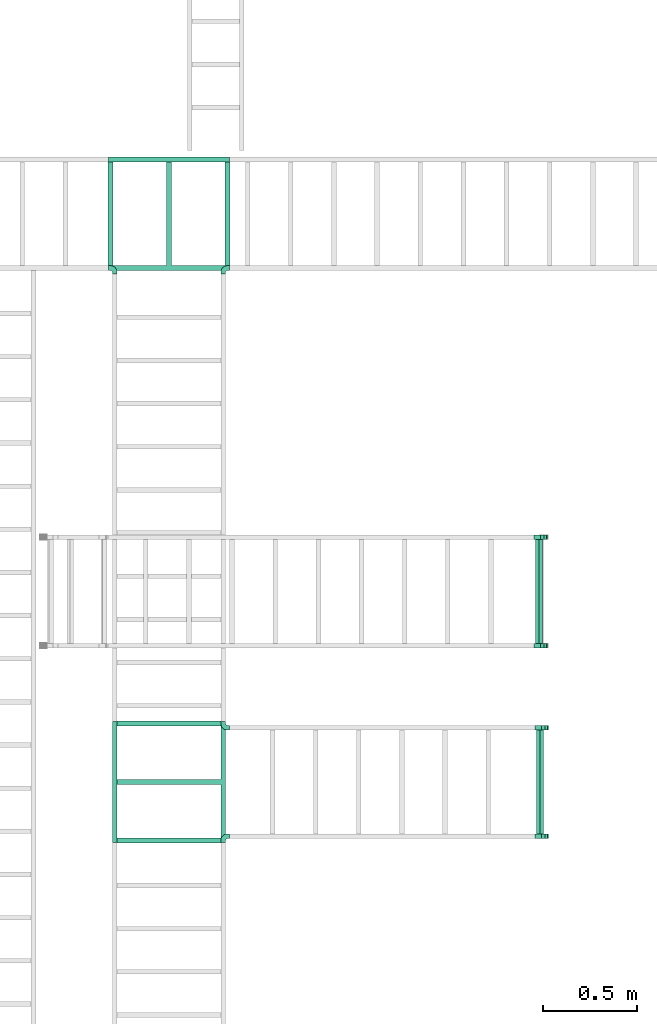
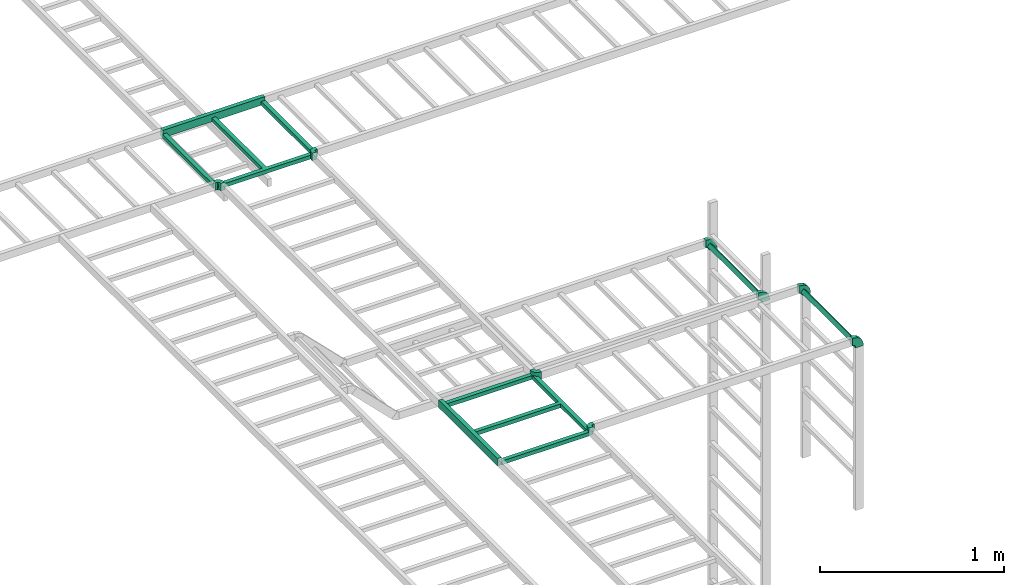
# One storey, part 1 of 6: 4 flow fittings.
"""IFC2X3 building model written with IfcOpenShell, lengths in millimetres."""

from ifc_helpers import new_model, entity, si_unit, converted_unit, derived_unit, direction, frame, origin_with_axes, place, context, subcontext, project, spatial, open_shell, surface_model, source, transform, mapped, type_object, element, save


model = new_model("IFC2X3")

# Units and contexts
model_context = context("Model", 3, precision=0.01, world=frame((0.0, 4.29681676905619e-09, 0.0)), true_north=direction((4.01073788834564e-13, 1.0)))
plan_context = context("Plan", 3, precision=0.01, world=frame((0.0, 4.29681676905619e-09, 0.0)), true_north=direction((4.01073788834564e-13, 1.0)))
body_context = subcontext(model_context, "Body", "Model", "MODEL_VIEW")
ifc_project = project(units=[converted_unit("PLANEANGLEUNIT", "DEGREE", entity("IfcPositiveLengthMeasure", 0.0174532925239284), si_unit("PLANEANGLEUNIT", "RADIAN"), dimensions=[0, 0, 0, 0, 0, 0, 0]), si_unit("AREAUNIT", "SQUARE_METRE"), si_unit("LENGTHUNIT", "METRE", prefix="MILLI"), si_unit("MASSUNIT", "GRAM", prefix="KILO"), si_unit("POWERUNIT", "WATT"), si_unit("PRESSUREUNIT", "PASCAL", prefix="KILO"), si_unit("FORCEUNIT", "NEWTON", prefix="KILO"), si_unit("ELECTRICVOLTAGEUNIT", "VOLT"), si_unit("ELECTRICCURRENTUNIT", "AMPERE"), si_unit("THERMODYNAMICTEMPERATUREUNIT", "DEGREE_CELSIUS"), si_unit("TIMEUNIT", "SECOND"), si_unit("VOLUMEUNIT", "CUBIC_METRE"), derived_unit("LINEARVELOCITYUNIT", [(si_unit("LENGTHUNIT", "METRE"), 1), (si_unit("TIMEUNIT", "SECOND"), -1)]), derived_unit("VOLUMETRICFLOWRATEUNIT", [(si_unit("VOLUMEUNIT", "CUBIC_METRE"), 1), (si_unit("TIMEUNIT", "SECOND"), -1)]), derived_unit("THERMALTRANSMITTANCEUNIT", [(si_unit("POWERUNIT", "WATT"), 1), (si_unit("THERMODYNAMICTEMPERATUREUNIT", "KELVIN"), -1), (si_unit("AREAUNIT", "SQUARE_METRE"), -1)]), derived_unit("SOUNDPRESSUREUNIT", [(si_unit("PRESSUREUNIT", "PASCAL"), 1)])], contexts=[model_context, plan_context])

# Site, building, storey
site_placement = place(None, frame((0.0, -4.29681676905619e-09, 0.0), z_axis=(0.0, 0.0, 1.0), x_axis=(1.0, 0.0, 0.0)))
site = spatial("IfcSite", under=ifc_project, at=site_placement, Name="ENGM", CompositionType="ELEMENT")
building_placement = place(site_placement, frame((0.0, 4.29681676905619e-09, 0.0), z_axis=(0.0, 0.0, 1.0), x_axis=(1.0, 0.0, 0.0)))
building = spatial("IfcBuilding", under=site, at=building_placement, Name="TS", CompositionType="ELEMENT")
storey_placement = place(building_placement, frame((0.0, 0.0, 210900.0), z_axis=(0.0, 0.0, 1.0), x_axis=(1.0, 0.0, 0.0)))
storey = spatial("IfcBuildingStorey", under=building, at=storey_placement, Name="Nivå F", CompositionType="ELEMENT", Elevation=210900.0)

# Flow fittings
cable_carrier_fitting_type_1 = type_object("IfcCableCarrierFittingType", Name="10mm Radius", PredefinedType="TEE")
shared_shape_1 = source(origin_with_axes(), body_context, "Body", "SurfaceModel", [
    surface_model("IfcShellBasedSurfaceModel", [(322.7, -274.60001, 0.4), (322.7, 274.60001, 0.4), (297.3, 274.60001, 0.4), (297.3, -274.60001, 0.4), (297.3, -274.60001, -25.0), (297.3, 274.60001, -25.0), (322.7, 274.60001, -25.0), (322.7, -274.60001, -25.0), (12.7, -274.60001, 0.4), (12.7, 274.60001, 0.4), (-12.7, 274.60001, 0.4), (-12.7, -274.60001, 0.4), (-12.7, -274.60001, -25.0), (-12.7, 274.60001, -25.0), (12.7, 274.60001, -25.0), (12.7, -274.60001, -25.0), (-297.3, -274.60001, 0.4), (-297.3, 274.60001, 0.4), (-322.7, 274.60001, 0.4), (-322.7, -274.60001, 0.4), (-322.7, -274.60001, -25.0), (-322.7, 274.60001, -25.0), (-297.3, 274.60001, -25.0), (-297.3, -274.60001, -25.0), (-310.0, -274.60001, 25.0), (-320.00002, -274.60001, 25.0), (-310.0, -300.0, 25.0), (-320.00002, -300.0, 25.0), (-307.4118, -300.34073, 25.0), (-304.99999, -301.33975, 25.0), (-292.3, -279.34271, 25.0), (-300.83781, -275.80622, 25.0), (-279.34271, -292.3, 25.0), (-284.96842, -284.96842, 25.0), (-302.92893, -302.92893, 25.0), (-301.33975, -304.99999, 25.0), (-300.34073, -307.4118, 25.0), (-275.80622, -300.83781, 25.0), (-274.60001, -310.0, 25.0), (-300.0, -310.0, 25.0), (-300.0, -320.00002, 25.0), (-274.60001, -320.00002, 25.0), (304.99999, -301.33975, 25.0), (307.4118, -300.34073, 25.0), (300.83781, -275.80622, 25.0), (292.3, -279.34271, 25.0), (284.96842, -284.96842, 25.0), (302.92893, -302.92893, 25.0), (320.00002, -274.60001, 25.0), (310.0, -274.60001, 25.0), (310.0, -300.0, 25.0), (320.00002, -300.0, 25.0), (279.34271, -292.3, 25.0), (300.34073, -307.4118, 25.0), (275.80622, -300.83781, 25.0), (274.60001, -310.0, 25.0), (300.0, -310.0, 25.0), (274.60001, -320.00002, 25.0), (300.0, -320.00002, 25.0), (301.33975, -304.99999, 25.0), (320.00002, 300.0, 25.0), (-320.00002, 300.0, 25.0), (320.00002, 274.60001, 25.0), (-320.00002, 274.60001, 25.0), (-300.0, -320.00002, -25.0), (-300.0, -310.0, -25.0), (-274.60001, -320.00002, -25.0), (-274.60001, -310.0, -25.0), (-274.96527, -304.92779, -25.0), (-300.34073, -307.4118, -25.0), (-276.0418, -300.0, -25.0), (-301.33975, -304.99999, -25.0), (300.0, -320.00002, -25.0), (274.60001, -320.00002, -25.0), (300.0, -310.0, -25.0), (274.60001, -310.0, -25.0), (274.96527, -304.92779, -25.0), (300.34073, -307.4118, -25.0), (276.0418, -300.0, -25.0), (301.33975, -304.99999, -25.0), (-304.99999, -301.33975, -25.0), (-307.4118, -300.34073, -25.0), (-320.00002, -274.60001, -25.0), (-302.92893, -302.92893, -25.0), (-320.00002, -300.0, -25.0), (-310.0, -300.0, -25.0), (320.00002, -274.60001, -25.0), (304.99999, -301.33975, -25.0), (302.92893, -302.92893, -25.0), (307.4118, -300.34073, -25.0), (310.0, -300.0, -25.0), (320.00002, -300.0, -25.0), (320.00002, 274.60001, -25.0), (-320.00002, 274.60001, -25.0), (-320.00002, 300.0, -25.0), (320.00002, 300.0, -25.0), (-276.0418, -300.0, 0.4), (-279.69674, -291.70049, 0.4), (-285.34038, -284.60191, 0.4), (-292.60234, -279.17011, 0.4), (-301.00605, -275.76158, 0.4), (-310.0, -274.60001, 0.4), (310.0, -274.60001, 0.4), (-310.0, -300.0, 0.4), (310.0, -300.0, 0.4), (301.00605, -275.76158, 0.4), (292.60234, -279.17011, 0.4), (285.34038, -284.60191, 0.4), (279.69674, -291.70049, 0.4), (276.0418, -300.0, 0.4)], [open_shell([[[0, 1, 2]], [[2, 3, 0]], [[4, 5, 6]], [[6, 7, 4]], [[2, 1, 5]], [[6, 5, 1]], [[3, 2, 5]], [[5, 4, 3]], [[0, 3, 7]], [[4, 7, 3]], [[1, 0, 7]], [[7, 6, 1]], [[8, 9, 10]], [[10, 11, 8]], [[12, 13, 14]], [[14, 15, 12]], [[10, 9, 13]], [[14, 13, 9]], [[11, 10, 13]], [[13, 12, 11]], [[8, 11, 15]], [[12, 15, 11]], [[9, 8, 15]], [[15, 14, 9]], [[16, 17, 18]], [[18, 19, 16]], [[20, 21, 22]], [[22, 23, 20]], [[18, 17, 21]], [[22, 21, 17]], [[19, 18, 21]], [[21, 20, 19]], [[16, 19, 23]], [[20, 23, 19]], [[17, 16, 23]], [[23, 22, 17]], [[24, 25, 26]], [[27, 26, 25]], [[24, 26, 28]], [[29, 30, 31]], [[32, 33, 34]], [[30, 34, 33]], [[31, 28, 29]], [[31, 24, 28]], [[35, 32, 34]], [[35, 36, 37]], [[35, 37, 32]], [[37, 36, 38]], [[39, 40, 41]], [[39, 41, 38]], [[36, 39, 38]], [[34, 30, 29]], [[42, 43, 44]], [[42, 44, 45]], [[45, 46, 47]], [[48, 49, 50]], [[43, 50, 49]], [[50, 51, 48]], [[49, 44, 43]], [[46, 52, 47]], [[53, 54, 55]], [[56, 57, 58]], [[57, 56, 55]], [[53, 55, 56]], [[42, 45, 47]], [[53, 59, 54]], [[52, 59, 47]], [[52, 54, 59]], [[60, 61, 62]], [[63, 62, 61]], [[64, 65, 66]], [[66, 65, 67]], [[68, 69, 70]], [[67, 65, 68]], [[69, 71, 70]], [[68, 65, 69]], [[72, 73, 74]], [[74, 73, 75]], [[76, 77, 74]], [[78, 79, 77]], [[77, 76, 78]], [[76, 74, 75]], [[80, 81, 82]], [[83, 80, 70]], [[84, 82, 85]], [[82, 81, 85]], [[80, 82, 70]], [[82, 86, 70]], [[87, 88, 78]], [[89, 87, 86]], [[89, 86, 90]], [[86, 87, 78]], [[86, 91, 90]], [[78, 70, 86]], [[79, 78, 88]], [[71, 83, 70]], [[92, 93, 94]], [[94, 95, 92]], [[40, 39, 65]], [[65, 64, 40]], [[41, 40, 64]], [[64, 66, 41]], [[38, 41, 67]], [[66, 67, 41]], [[38, 67, 68]], [[70, 96, 68]], [[38, 68, 96]], [[38, 96, 37]], [[32, 97, 33]], [[32, 37, 96]], [[97, 32, 96]], [[98, 99, 30]], [[100, 101, 24]], [[99, 100, 31]], [[33, 98, 30]], [[30, 99, 31]], [[100, 24, 31]], [[98, 33, 97]], [[49, 48, 102]], [[25, 24, 101]], [[102, 86, 82]], [[86, 102, 48]], [[101, 82, 25]], [[82, 101, 102]], [[27, 25, 84]], [[82, 84, 25]], [[26, 27, 103]], [[103, 84, 85]], [[84, 103, 27]], [[28, 26, 103]], [[29, 28, 103]], [[81, 103, 85]], [[103, 81, 80]], [[83, 103, 80]], [[34, 29, 103]], [[35, 34, 83]], [[71, 36, 35]], [[36, 69, 39]], [[71, 35, 83]], [[36, 71, 69]], [[39, 69, 65]], [[103, 83, 34]], [[53, 56, 77]], [[59, 53, 79]], [[77, 56, 74]], [[53, 77, 79]], [[59, 79, 88]], [[88, 47, 59]], [[42, 47, 104]], [[104, 43, 42]], [[43, 104, 50]], [[104, 87, 89]], [[89, 90, 104]], [[87, 104, 88]], [[47, 88, 104]], [[51, 50, 104]], [[104, 90, 91]], [[104, 91, 51]], [[48, 51, 86]], [[91, 86, 51]], [[49, 102, 105]], [[106, 107, 45]], [[44, 105, 106]], [[44, 49, 105]], [[45, 44, 106]], [[107, 46, 45]], [[107, 108, 46]], [[109, 78, 76]], [[55, 76, 75]], [[52, 109, 54]], [[109, 52, 108]], [[55, 54, 109]], [[109, 76, 55]], [[108, 52, 46]], [[57, 55, 75]], [[75, 73, 57]], [[58, 57, 73]], [[73, 72, 58]], [[56, 58, 72]], [[72, 74, 56]], [[61, 60, 95]], [[95, 94, 61]], [[63, 61, 93]], [[94, 93, 61]], [[62, 63, 93]], [[93, 92, 62]], [[60, 62, 95]], [[92, 95, 62]], [[105, 102, 101]], [[106, 105, 100]], [[108, 107, 98]], [[109, 108, 97]], [[106, 99, 107]], [[100, 99, 106]], [[101, 100, 105]], [[97, 96, 109]], [[98, 97, 108]], [[99, 98, 107]], [[109, 96, 70]], [[70, 78, 109]]])]),
])
for number, where, z_axis, x_axis, name in (
    (1, (717167.4114, 442266.22699, 3925.0), (0.0, 0.0, 1.0), (1.0, 0.0, 0.0), "10mm Radius"),
    (2, (717167.4114, 439256.15201, 3925.0), (0.0, 0.0, 1.0), (0.0, 1.0, 0.0), "10mm Radius"),
):
    element("IfcFlowFitting", number, at=place(storey_placement, frame(where, z_axis=z_axis, x_axis=x_axis)), inside=storey, type_object=cable_carrier_fitting_type_1, Name=name, context=body_context, shape_type="MappedRepresentation", body=[
        mapped(shared_shape_1, transform((0.0, 0.0, 0.0), scale=1.0)),
    ])
cable_carrier_fitting_type_2 = type_object("IfcCableCarrierFittingType", Name="Standard 10mm", PredefinedType="BEND")
shared_shape_2 = source(origin_with_axes(), body_context, "Body", "SurfaceModel", [
    surface_model("IfcShellBasedSurfaceModel", [(-18.94868, 36.90919, 274.60001), (-0.98816, 18.94868, -274.60001), (-18.94868, 36.90919, -274.60001), (-0.98816, 18.94868, 274.60001), (-18.94868, 0.98816, 274.60001), (-18.94868, 0.98816, -274.60001), (-36.90919, 18.94868, -274.60001), (-36.90919, 18.94868, 274.60001), (-45.0, 25.0, 300.0), (-45.0, 25.0, 274.60001), (-45.0, -25.0, 274.60001), (-45.0, -25.0, 300.0), (-45.0, 25.0, -274.60001), (-45.0, 25.0, -300.0), (-45.0, -25.0, -300.0), (-45.0, -25.0, -274.60001), (-35.0, 25.0, 274.60001), (-35.0, 25.0, 300.0), (-12.03899, -20.43277, 274.60001), (-27.92893, 27.92893, 274.60001), (-35.0, -25.0, 274.60001), (-25.0, 45.0, 274.60001), (25.0, 35.0, 274.60001), (-25.0, 35.0, 274.60001), (25.0, 45.0, 274.60001), (20.43277, 12.03899, 274.60001), (7.42641, -7.42641, 274.60001), (-35.0, -25.0, 300.0), (-27.92893, 27.92893, 300.0), (-12.03899, -20.43277, 300.0), (7.42641, -7.42641, 300.0), (20.43277, 12.03899, 300.0), (-25.0, 35.0, 300.0), (25.0, 35.0, 300.0), (25.0, 45.0, 300.0), (-25.0, 45.0, 300.0), (-35.0, 25.0, -300.0), (-35.0, 25.0, -274.60001), (-12.03899, -20.43277, -300.0), (-27.92893, 27.92893, -300.0), (-35.0, -25.0, -300.0), (-25.0, 45.0, -300.0), (25.0, 35.0, -300.0), (-25.0, 35.0, -300.0), (25.0, 45.0, -300.0), (20.43277, 12.03899, -300.0), (7.42641, -7.42641, -300.0), (-35.0, -25.0, -274.60001), (-27.92893, 27.92893, -274.60001), (-12.03899, -20.43277, -274.60001), (7.42641, -7.42641, -274.60001), (20.43277, 12.03899, -274.60001), (-25.0, 35.0, -274.60001), (25.0, 35.0, -274.60001), (25.0, 45.0, -274.60001), (-25.0, 45.0, -274.60001), (-21.41693, -22.29816, 300.0), (-23.5195, -22.71639, 274.60001), (-2.30629, -13.92959, 274.60001), (-2.30629, -13.92959, 300.0), (22.71639, 23.5195, 274.60001), (22.71639, 23.5195, 300.0), (13.92959, 2.30629, 300.0), (13.92959, 2.30629, 274.60001), (-21.41693, -22.29816, -300.0), (-23.5195, -22.71639, -274.60001), (-2.30629, -13.92959, -274.60001), (-2.30629, -13.92959, -300.0), (22.29816, 21.41693, -274.60001), (22.71639, 23.5195, -300.0), (13.92959, 2.30629, -300.0), (13.92959, 2.30629, -274.60001)], [open_shell([[[0, 1, 2]], [[1, 0, 3]], [[1, 3, 4]], [[4, 5, 1]], [[2, 1, 5]], [[5, 6, 2]], [[0, 2, 6]], [[6, 7, 0]], [[3, 0, 7]], [[7, 4, 3]], [[6, 5, 7]], [[4, 7, 5]], [[8, 9, 10]], [[10, 11, 8]], [[12, 13, 14]], [[14, 15, 12]], [[9, 8, 16]], [[17, 16, 8]], [[18, 16, 19]], [[9, 20, 10]], [[20, 9, 16]], [[18, 20, 16]], [[21, 22, 23]], [[22, 21, 24]], [[23, 22, 25]], [[26, 18, 19]], [[19, 25, 26]], [[19, 23, 25]], [[11, 10, 20]], [[20, 27, 11]], [[8, 11, 27]], [[28, 17, 29]], [[8, 27, 17]], [[29, 17, 27]], [[30, 31, 28]], [[28, 31, 32]], [[33, 34, 35]], [[33, 32, 31]], [[33, 35, 32]], [[30, 28, 29]], [[13, 12, 36]], [[37, 36, 12]], [[38, 36, 39]], [[13, 40, 14]], [[40, 13, 36]], [[38, 40, 36]], [[41, 42, 43]], [[42, 41, 44]], [[43, 42, 45]], [[46, 38, 39]], [[39, 45, 46]], [[39, 43, 45]], [[15, 14, 40]], [[40, 47, 15]], [[12, 15, 47]], [[48, 37, 49]], [[12, 47, 37]], [[49, 37, 47]], [[50, 51, 48]], [[48, 51, 52]], [[53, 54, 55]], [[53, 52, 51]], [[53, 55, 52]], [[50, 48, 49]], [[28, 16, 17]], [[19, 16, 28]], [[32, 23, 19]], [[28, 32, 19]], [[18, 56, 57]], [[58, 30, 59]], [[27, 57, 56]], [[30, 58, 26]], [[18, 29, 56]], [[59, 18, 58]], [[33, 60, 22]], [[31, 25, 61]], [[26, 62, 30]], [[61, 60, 33]], [[57, 27, 20]], [[63, 31, 62]], [[61, 25, 60]], [[62, 26, 63]], [[63, 25, 31]], [[59, 29, 18]], [[37, 39, 36]], [[48, 39, 37]], [[52, 43, 48]], [[39, 48, 43]], [[49, 64, 38]], [[64, 49, 65]], [[40, 65, 47]], [[46, 66, 67]], [[49, 38, 67]], [[53, 68, 69]], [[46, 50, 66]], [[49, 67, 66]], [[69, 42, 53]], [[40, 64, 65]], [[50, 70, 71]], [[68, 51, 45]], [[45, 71, 70]], [[50, 46, 70]], [[45, 51, 71]], [[68, 45, 69]], [[24, 21, 34]], [[35, 34, 21]], [[44, 41, 55]], [[55, 54, 44]], [[23, 32, 35]], [[35, 21, 23]], [[33, 22, 34]], [[24, 34, 22]], [[43, 52, 41]], [[55, 41, 52]], [[53, 42, 44]], [[44, 54, 53]]])]),
])
for number, where, z_axis, x_axis, name in (
    (3, (719152.4114, 439256.15201, 3925.0), (0.0, 1.0, 0.0), (1.0, 0.0, 0.0), "Standard 10mm"),
    (4, (719146.81323, 440264.80936, 3618.23548999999), (0.0, -1.0, 0.0), (0.0, 0.0, 1.0), "Standard 10mm"),
):
    element("IfcFlowFitting", number, at=place(storey_placement, frame(where, z_axis=z_axis, x_axis=x_axis)), inside=storey, type_object=cable_carrier_fitting_type_2, Name=name, context=body_context, shape_type="MappedRepresentation", body=[
        mapped(shared_shape_2, transform((0.0, 0.0, 0.0), scale=1.0)),
    ])

save(model, "model.ifc")
